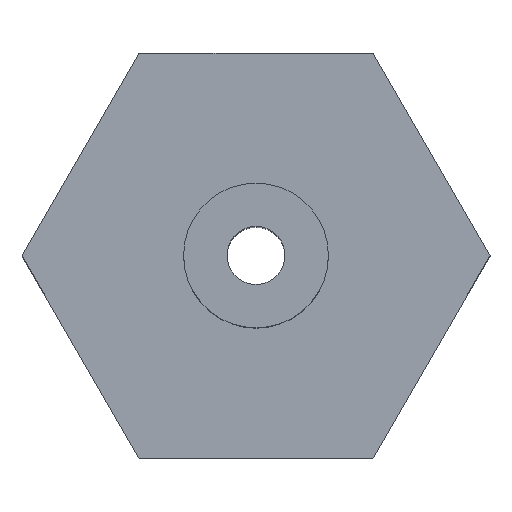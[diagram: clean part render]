
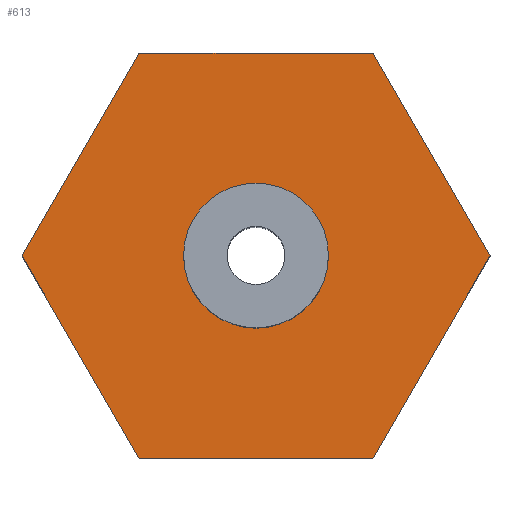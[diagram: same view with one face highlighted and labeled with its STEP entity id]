
A CAD part, top view. The second image highlights one B-rep face of the part: STEP entity #613.
In plain terms, the highlighted planar face has unit normal (0, 0, 1).
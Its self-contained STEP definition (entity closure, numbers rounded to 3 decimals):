
#11 = VERTEX_POINT ( 'NONE', #332 ) ;
#50 = EDGE_CURVE ( 'NONE', #266, #583, #197, .T. ) ;
#56 = DIRECTION ( 'NONE',  ( -1., 0., 0. ) ) ;
#77 = CARTESIAN_POINT ( 'NONE',  ( -4.041, 7., 5. ) ) ;
#82 = DIRECTION ( 'NONE',  ( -0.5, 0.866, 0. ) ) ;
#83 = VECTOR ( 'NONE', #382, 1000. ) ;
#87 = DIRECTION ( 'NONE',  ( 0., 0., 1. ) ) ;
#88 = VERTEX_POINT ( 'NONE', #339 ) ;
#108 = CARTESIAN_POINT ( 'NONE',  ( 4.041, 7., 5. ) ) ;
#114 = LINE ( 'NONE', #585, #148 ) ;
#118 = ORIENTED_EDGE ( 'NONE', *, *, #621, .F. ) ;
#145 = DIRECTION ( 'NONE',  ( 0.5, 0.866, 0. ) ) ;
#148 = VECTOR ( 'NONE', #56, 1000. ) ;
#157 = VERTEX_POINT ( 'NONE', #108 ) ;
#173 = DIRECTION ( 'NONE',  ( 1., 0., 0. ) ) ;
#175 = ORIENTED_EDGE ( 'NONE', *, *, #396, .T. ) ;
#176 = CARTESIAN_POINT ( 'NONE',  ( -4.041, -7., 5. ) ) ;
#177 = CARTESIAN_POINT ( 'NONE',  ( 4.041, -7., 5. ) ) ;
#181 = PLANE ( 'NONE',  #189 ) ;
#184 = ORIENTED_EDGE ( 'NONE', *, *, #329, .F. ) ;
#186 = DIRECTION ( 'NONE',  ( 1., 0., 0. ) ) ;
#188 = ORIENTED_EDGE ( 'NONE', *, *, #50, .T. ) ;
#189 = AXIS2_PLACEMENT_3D ( 'NONE', #368, #87, #234 ) ;
#197 = LINE ( 'NONE', #387, #503 ) ;
#223 = CARTESIAN_POINT ( 'NONE',  ( 0., 0., 5. ) ) ;
#227 = FACE_BOUND ( 'NONE', #615, .T. ) ;
#234 = DIRECTION ( 'NONE',  ( 1., 0., 0. ) ) ;
#246 = VECTOR ( 'NONE', #82, 1000. ) ;
#266 = VERTEX_POINT ( 'NONE', #177 ) ;
#273 = LINE ( 'NONE', #407, #246 ) ;
#275 = ORIENTED_EDGE ( 'NONE', *, *, #303, .T. ) ;
#278 = ORIENTED_EDGE ( 'NONE', *, *, #481, .T. ) ;
#280 = DIRECTION ( 'NONE',  ( 0., 0., 1. ) ) ;
#284 = VECTOR ( 'NONE', #469, 1000. ) ;
#286 = EDGE_CURVE ( 'NONE', #88, #614, #315, .T. ) ;
#287 = VERTEX_POINT ( 'NONE', #460 ) ;
#303 = EDGE_CURVE ( 'NONE', #583, #157, #273, .T. ) ;
#315 = LINE ( 'NONE', #369, #284 ) ;
#329 = EDGE_CURVE ( 'NONE', #287, #11, #601, .T. ) ;
#332 = CARTESIAN_POINT ( 'NONE',  ( 2.5, 0., 5. ) ) ;
#339 = CARTESIAN_POINT ( 'NONE',  ( -8.083, 0., 5. ) ) ;
#362 = AXIS2_PLACEMENT_3D ( 'NONE', #616, #280, #186 ) ;
#368 = CARTESIAN_POINT ( 'NONE',  ( 0., 0., 5. ) ) ;
#369 = CARTESIAN_POINT ( 'NONE',  ( -8.083, 0., 5. ) ) ;
#382 = DIRECTION ( 'NONE',  ( -0.5, -0.866, 0. ) ) ;
#387 = CARTESIAN_POINT ( 'NONE',  ( 4.041, -7., 5. ) ) ;
#396 = EDGE_CURVE ( 'NONE', #625, #88, #434, .T. ) ;
#399 = LINE ( 'NONE', #542, #515 ) ;
#407 = CARTESIAN_POINT ( 'NONE',  ( 8.083, 0., 5. ) ) ;
#427 = CARTESIAN_POINT ( 'NONE',  ( -4.041, 7., 5. ) ) ;
#431 = AXIS2_PLACEMENT_3D ( 'NONE', #223, #600, #173 ) ;
#434 = LINE ( 'NONE', #77, #83 ) ;
#460 = CARTESIAN_POINT ( 'NONE',  ( -2.5, 0., 5. ) ) ;
#469 = DIRECTION ( 'NONE',  ( 0.5, -0.866, 0. ) ) ;
#481 = EDGE_CURVE ( 'NONE', #614, #266, #399, .T. ) ;
#482 = ORIENTED_EDGE ( 'NONE', *, *, #286, .T. ) ;
#488 = EDGE_CURVE ( 'NONE', #157, #625, #114, .T. ) ;
#494 = ORIENTED_EDGE ( 'NONE', *, *, #488, .T. ) ;
#503 = VECTOR ( 'NONE', #145, 1000. ) ;
#513 = FACE_OUTER_BOUND ( 'NONE', #551, .T. ) ;
#515 = VECTOR ( 'NONE', #599, 1000. ) ;
#542 = CARTESIAN_POINT ( 'NONE',  ( -4.041, -7., 5. ) ) ;
#551 = EDGE_LOOP ( 'NONE', ( #188, #275, #494, #175, #482, #278 ) ) ;
#583 = VERTEX_POINT ( 'NONE', #611 ) ;
#585 = CARTESIAN_POINT ( 'NONE',  ( 4.041, 7., 5. ) ) ;
#599 = DIRECTION ( 'NONE',  ( 1., 0., 0. ) ) ;
#600 = DIRECTION ( 'NONE',  ( 0., 0., 1. ) ) ;
#601 = CIRCLE ( 'NONE', #431, 2.5 ) ;
#611 = CARTESIAN_POINT ( 'NONE',  ( 8.083, 0., 5. ) ) ;
#613 = ADVANCED_FACE ( 'NONE', ( #227, #513 ), #181, .T. ) ;
#614 = VERTEX_POINT ( 'NONE', #176 ) ;
#615 = EDGE_LOOP ( 'NONE', ( #184, #118 ) ) ;
#616 = CARTESIAN_POINT ( 'NONE',  ( 0., 0., 5. ) ) ;
#619 = CIRCLE ( 'NONE', #362, 2.5 ) ;
#621 = EDGE_CURVE ( 'NONE', #11, #287, #619, .T. ) ;
#625 = VERTEX_POINT ( 'NONE', #427 ) ;
